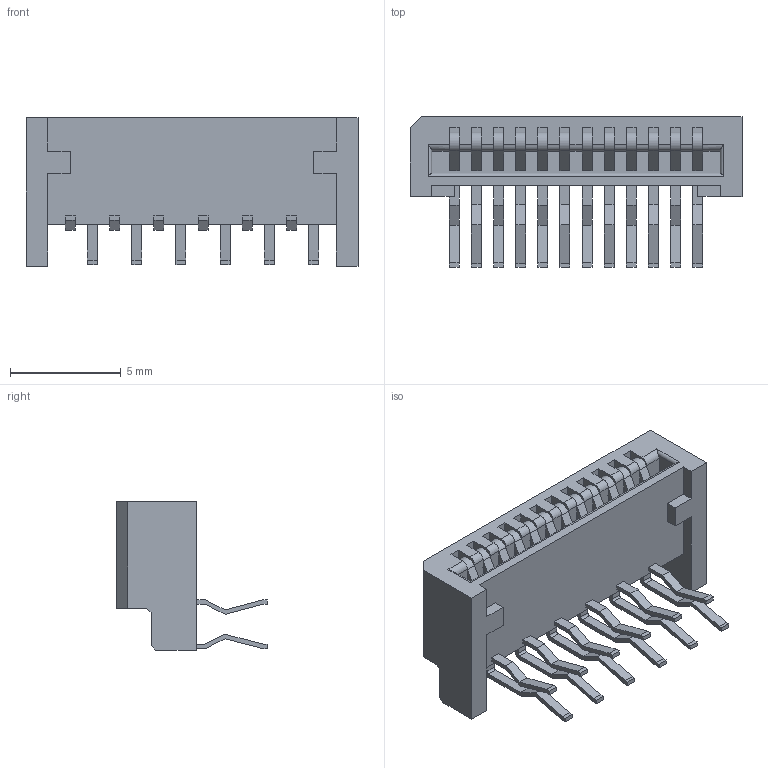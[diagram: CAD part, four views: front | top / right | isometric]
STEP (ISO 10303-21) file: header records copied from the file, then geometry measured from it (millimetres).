
FILE_DESCRIPTION((''),'2;1');
FILE_NAME('528071210','2016-06-21T',('gsharma'),(''),'PRO/ENGINEER BY PARAMETRIC TECHNOLOGY CORPORATION, 2012310','PRO/ENGINEER BY PARAMETRIC TECHNOLOGY CORPORATION, 2012310','');
FILE_SCHEMA(('CONFIG_CONTROL_DESIGN'));
Length unit declared in the file: millimetre
Products named in the file (1): 528071210
Bounding box: 15 x 6.8 x 6.7 mm (x, y, z)
Volume: 178.3 mm3; surface area: 633.5 mm2
Topology: 1 solids, 1 shells, 423 faces, 1198 edges, 802 vertices
Faces by surface type: plane 359, cylinder 64
Entity records: 13557 total; most frequent: CARTESIAN_POINT 2433, ORIENTED_EDGE 2348, DIRECTION 2190, EDGE_CURVE 1174, VECTOR 1048, LINE 1048, VERTEX_POINT 766, AXIS2_PLACEMENT_3D 571
